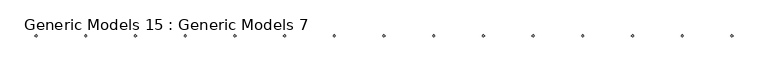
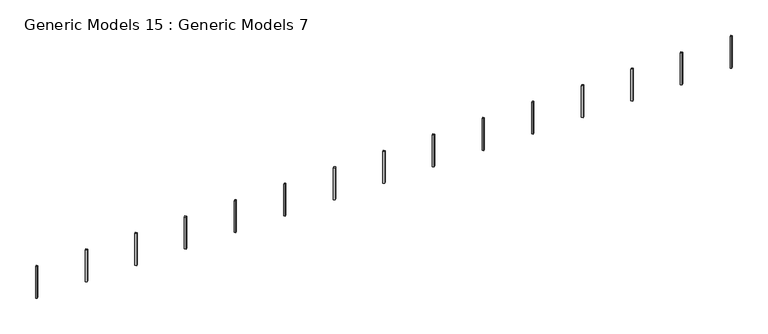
"""IFC4 building model written with IfcOpenShell, lengths in millimetres: proxy geometry, Generic Models 15 : Generic Models 7."""

from ifc_helpers import new_model, si_unit, frame, origin, place, context, project, spatial, polyline, outline, extrude, source, transform, mapped, element, save


def generic_models_15_generic_models_7_14492d66(model_context):
    return source(origin(), model_context, "Body", "SweptSolid", [
        extrude(outline(polyline([(-133816.1816468, -31358.2529354), (-133957.603003, -31499.6742916), (-134099.0243592, -31358.2529354), (-133957.603003, -31216.8315791), (-133816.1816468, -31358.2529354)])), frame((0.0, 0.0, 44170.0), z_axis=(0.0, 0.0, 1.0), x_axis=(1.0, 0.0, 0.0)), (0.0, 0.0, 1.0), 4048.9817632),
        extrude(outline(polyline([(-127830.8583661, -31358.2529354), (-127972.2797223, -31499.6742916), (-128113.7010786, -31358.2529354), (-127972.2797223, -31216.8315791), (-127830.8583661, -31358.2529354)])), frame((0.0, 0.0, 44170.0), z_axis=(0.0, 0.0, 1.0), x_axis=(1.0, 0.0, 0.0)), (0.0, 0.0, 1.0), 4048.9817632),
        extrude(outline(polyline([(-121845.5350854, -31358.2529354), (-121986.9564416, -31499.6742916), (-122128.3777979, -31358.2529354), (-121986.9564416, -31216.8315791), (-121845.5350854, -31358.2529354)])), frame((0.0, 0.0, 44170.0), z_axis=(0.0, 0.0, 1.0), x_axis=(1.0, 0.0, 0.0)), (0.0, 0.0, 1.0), 4048.9817632),
        extrude(outline(polyline([(-115860.2118047, -31358.2529354), (-116001.633161, -31499.6742916), (-116143.0545172, -31358.2529354), (-116001.633161, -31216.8315791), (-115860.2118047, -31358.2529354)])), frame((0.0, 0.0, 44170.0), z_axis=(0.0, 0.0, 1.0), x_axis=(1.0, 0.0, 0.0)), (0.0, 0.0, 1.0), 4048.9817632),
        extrude(outline(polyline([(-109874.888524, -31358.2529354), (-110016.3098803, -31499.6742916), (-110157.7312365, -31358.2529354), (-110016.3098803, -31216.8315791), (-109874.888524, -31358.2529354)])), frame((0.0, 0.0, 44170.0), z_axis=(0.0, 0.0, 1.0), x_axis=(1.0, 0.0, 0.0)), (0.0, 0.0, 1.0), 4048.9817632),
        extrude(outline(polyline([(-103889.5652434, -31358.2529354), (-104030.9865996, -31499.6742916), (-104172.4079558, -31358.2529354), (-104030.9865996, -31216.8315791), (-103889.5652434, -31358.2529354)])), frame((0.0, 0.0, 44170.0), z_axis=(0.0, 0.0, 1.0), x_axis=(1.0, 0.0, 0.0)), (0.0, 0.0, 1.0), 4048.9817632),
        extrude(outline(polyline([(-97904.2419627, -31358.2529354), (-98045.6633189, -31499.6742916), (-98187.0846752, -31358.2529354), (-98045.6633189, -31216.8315791), (-97904.2419627, -31358.2529354)])), frame((0.0, 0.0, 44170.0), z_axis=(0.0, 0.0, 1.0), x_axis=(1.0, 0.0, 0.0)), (0.0, 0.0, 1.0), 4048.9817632),
        extrude(outline(polyline([(-91918.918682, -31358.2529354), (-92060.3400383, -31499.6742916), (-92201.7613945, -31358.2529354), (-92060.3400383, -31216.8315791), (-91918.918682, -31358.2529354)])), frame((0.0, 0.0, 44170.0), z_axis=(0.0, 0.0, 1.0), x_axis=(1.0, 0.0, 0.0)), (0.0, 0.0, 1.0), 4048.9817632),
        extrude(outline(polyline([(-85933.5954013, -31358.2529354), (-86075.0167576, -31499.6742916), (-86216.4381138, -31358.2529354), (-86075.0167576, -31216.8315791), (-85933.5954013, -31358.2529354)])), frame((0.0, 0.0, 44170.0), z_axis=(0.0, 0.0, 1.0), x_axis=(1.0, 0.0, 0.0)), (0.0, 0.0, 1.0), 4048.9817632),
        extrude(outline(polyline([(-79948.2721207, -31358.2529354), (-80089.6934769, -31499.6742916), (-80231.1148331, -31358.2529354), (-80089.6934769, -31216.8315791), (-79948.2721207, -31358.2529354)])), frame((0.0, 0.0, 44170.0), z_axis=(0.0, 0.0, 1.0), x_axis=(1.0, 0.0, 0.0)), (0.0, 0.0, 1.0), 4048.9817632),
        extrude(outline(polyline([(-73962.94884, -31358.2529354), (-74104.3701962, -31499.6742916), (-74245.7915525, -31358.2529354), (-74104.3701962, -31216.8315791), (-73962.94884, -31358.2529354)])), frame((0.0, 0.0, 44170.0), z_axis=(0.0, 0.0, 1.0), x_axis=(1.0, 0.0, 0.0)), (0.0, 0.0, 1.0), 4048.9817632),
        extrude(outline(polyline([(-67977.6255593, -31358.2529354), (-68119.0469155, -31499.6742916), (-68260.4682718, -31358.2529354), (-68119.0469155, -31216.8315791), (-67977.6255593, -31358.2529354)])), frame((0.0, 0.0, 44170.0), z_axis=(0.0, 0.0, 1.0), x_axis=(1.0, 0.0, 0.0)), (0.0, 0.0, 1.0), 4048.9817632),
        extrude(outline(polyline([(-61992.3022786, -31358.2529354), (-62133.7236349, -31499.6742916), (-62275.1449911, -31358.2529354), (-62133.7236349, -31216.8315791), (-61992.3022786, -31358.2529354)])), frame((0.0, 0.0, 44170.0), z_axis=(0.0, 0.0, 1.0), x_axis=(1.0, 0.0, 0.0)), (0.0, 0.0, 1.0), 4048.9817632),
        extrude(outline(polyline([(-56006.9789979, -31358.2529354), (-56148.4003542, -31499.6742916), (-56289.8217104, -31358.2529354), (-56148.4003542, -31216.8315791), (-56006.9789979, -31358.2529354)])), frame((0.0, 0.0, 44170.0), z_axis=(0.0, 0.0, 1.0), x_axis=(1.0, 0.0, 0.0)), (0.0, 0.0, 1.0), 4048.9817632),
        extrude(outline(polyline([(-50021.6557173, -31358.2529354), (-50163.0770735, -31499.6742916), (-50304.4984297, -31358.2529354), (-50163.0770735, -31216.8315791), (-50021.6557173, -31358.2529354)])), frame((0.0, 0.0, 44170.0), z_axis=(0.0, 0.0, 1.0), x_axis=(1.0, 0.0, 0.0)), (0.0, 0.0, 1.0), 4048.9817632),
    ])


if __name__ == "__main__":
    model = new_model("IFC4")
    model_context = context("Model", 3, world=origin())
    ifc_project = project(units=[si_unit("LENGTHUNIT", "METRE", prefix="MILLI")], contexts=[model_context])
    site = spatial("IfcSite", under=ifc_project)
    building = spatial("IfcBuilding", under=site)
    placement = place(None, origin())
    generic_models_15_generic_models_7_shape = generic_models_15_generic_models_7_14492d66(model_context)
    element("IfcBuildingElementProxy", 1, Name="Generic Models 15 : Generic Models 7", ObjectType="Generic Models 15 : Generic Models 7", at=placement, inside=building, context=model_context, shape_type="MappedRepresentation", body=[
        mapped(generic_models_15_generic_models_7_shape, transform((0.0, 0.0, 0.0), x_axis=(1.0, 0.0, 0.0), y_axis=(0.0, 1.0, 0.0), z_axis=(0.0, 0.0, 1.0))),
    ])
    save(model, "model.ifc")
